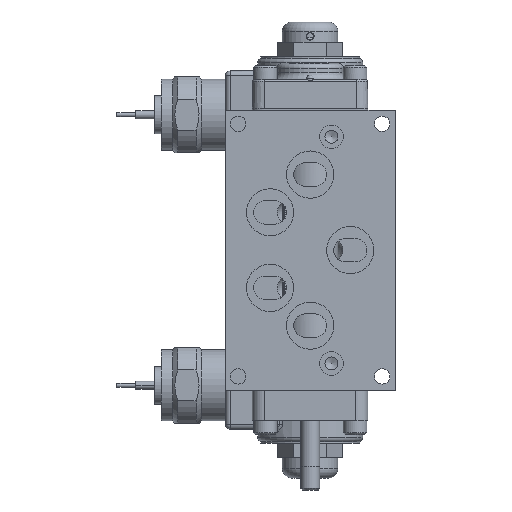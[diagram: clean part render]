
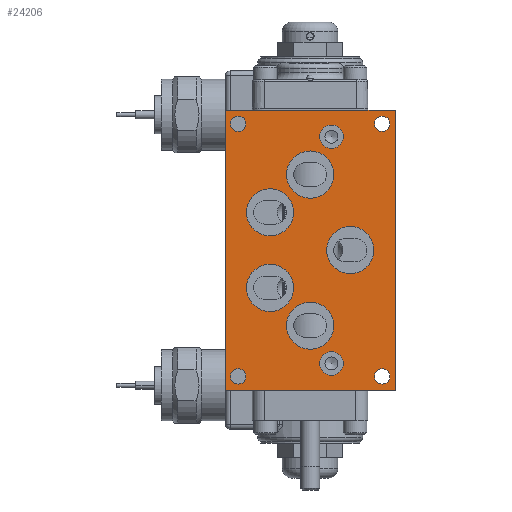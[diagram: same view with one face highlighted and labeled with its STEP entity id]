
A CAD part, front view. The second image highlights one B-rep face of the part: STEP entity #24206.
In plain terms, the highlighted planar face has unit normal (0, -1, 0).
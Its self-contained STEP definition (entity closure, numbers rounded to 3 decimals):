
#592=FACE_BOUND('',#4149,.T.);
#593=FACE_BOUND('',#4150,.T.);
#594=FACE_BOUND('',#4151,.T.);
#595=FACE_BOUND('',#4152,.T.);
#596=FACE_BOUND('',#4153,.T.);
#597=FACE_BOUND('',#4154,.T.);
#598=FACE_BOUND('',#4155,.T.);
#599=FACE_BOUND('',#4156,.T.);
#600=FACE_BOUND('',#4157,.T.);
#601=FACE_BOUND('',#4158,.T.);
#602=FACE_BOUND('',#4159,.T.);
#1643=PLANE('',#26147);
#2561=FACE_OUTER_BOUND('',#4148,.T.);
#4148=EDGE_LOOP('',(#17989,#17990,#17991,#17992));
#4149=EDGE_LOOP('',(#17993));
#4150=EDGE_LOOP('',(#17994));
#4151=EDGE_LOOP('',(#17995));
#4152=EDGE_LOOP('',(#17996));
#4153=EDGE_LOOP('',(#17997));
#4154=EDGE_LOOP('',(#17998));
#4155=EDGE_LOOP('',(#17999));
#4156=EDGE_LOOP('',(#18000));
#4157=EDGE_LOOP('',(#18001));
#4158=EDGE_LOOP('',(#18002));
#4159=EDGE_LOOP('',(#18003));
#5531=CIRCLE('',#26068,0.396);
#5535=CIRCLE('',#26076,0.396);
#5537=CIRCLE('',#26081,0.794);
#5539=CIRCLE('',#26085,0.794);
#5541=CIRCLE('',#26089,0.794);
#5543=CIRCLE('',#26093,0.794);
#5545=CIRCLE('',#26097,0.794);
#5558=CIRCLE('',#26118,0.258);
#5562=CIRCLE('',#26124,0.258);
#5566=CIRCLE('',#26130,0.258);
#5570=CIRCLE('',#26136,0.258);
#7322=LINE('',#39990,#8932);
#7326=LINE('',#39999,#8936);
#7328=LINE('',#40002,#8938);
#7329=LINE('',#40003,#8939);
#8932=VECTOR('',#30804,1.);
#8936=VECTOR('',#30814,1.);
#8938=VECTOR('',#30818,1.);
#8939=VECTOR('',#30819,1.);
#10523=VERTEX_POINT('',#39801);
#10528=VERTEX_POINT('',#39817);
#10530=VERTEX_POINT('',#39826);
#10532=VERTEX_POINT('',#39833);
#10534=VERTEX_POINT('',#39840);
#10536=VERTEX_POINT('',#39847);
#10538=VERTEX_POINT('',#39854);
#10553=VERTEX_POINT('',#39899);
#10559=VERTEX_POINT('',#39914);
#10565=VERTEX_POINT('',#39929);
#10571=VERTEX_POINT('',#39944);
#10584=VERTEX_POINT('',#39986);
#10585=VERTEX_POINT('',#39988);
#10586=VERTEX_POINT('',#39996);
#10587=VERTEX_POINT('',#39998);
#13146=EDGE_CURVE('',#10523,#10523,#5531,.T.);
#13153=EDGE_CURVE('',#10528,#10528,#5535,.T.);
#13157=EDGE_CURVE('',#10530,#10530,#5537,.T.);
#13160=EDGE_CURVE('',#10532,#10532,#5539,.T.);
#13163=EDGE_CURVE('',#10534,#10534,#5541,.T.);
#13166=EDGE_CURVE('',#10536,#10536,#5543,.T.);
#13169=EDGE_CURVE('',#10538,#10538,#5545,.T.);
#13192=EDGE_CURVE('',#10553,#10553,#5558,.T.);
#13199=EDGE_CURVE('',#10559,#10559,#5562,.T.);
#13206=EDGE_CURVE('',#10565,#10565,#5566,.T.);
#13213=EDGE_CURVE('',#10571,#10571,#5570,.T.);
#13236=EDGE_CURVE('',#10584,#10585,#7322,.T.);
#13240=EDGE_CURVE('',#10587,#10586,#7326,.T.);
#13242=EDGE_CURVE('',#10586,#10584,#7328,.T.);
#13243=EDGE_CURVE('',#10585,#10587,#7329,.T.);
#17989=ORIENTED_EDGE('',*,*,#13242,.T.);
#17990=ORIENTED_EDGE('',*,*,#13236,.T.);
#17991=ORIENTED_EDGE('',*,*,#13243,.T.);
#17992=ORIENTED_EDGE('',*,*,#13240,.T.);
#17993=ORIENTED_EDGE('',*,*,#13146,.T.);
#17994=ORIENTED_EDGE('',*,*,#13153,.T.);
#17995=ORIENTED_EDGE('',*,*,#13157,.T.);
#17996=ORIENTED_EDGE('',*,*,#13160,.T.);
#17997=ORIENTED_EDGE('',*,*,#13163,.T.);
#17998=ORIENTED_EDGE('',*,*,#13166,.T.);
#17999=ORIENTED_EDGE('',*,*,#13169,.T.);
#18000=ORIENTED_EDGE('',*,*,#13192,.T.);
#18001=ORIENTED_EDGE('',*,*,#13199,.T.);
#18002=ORIENTED_EDGE('',*,*,#13206,.T.);
#18003=ORIENTED_EDGE('',*,*,#13213,.T.);
#24206=ADVANCED_FACE('',(#2561,#592,#593,#594,#595,#596,#597,#598,#599,
#600,#601,#602),#1643,.T.);
#26068=AXIS2_PLACEMENT_3D('',#39802,#30602,#30603);
#26076=AXIS2_PLACEMENT_3D('',#39818,#30621,#30622);
#26081=AXIS2_PLACEMENT_3D('',#39827,#30633,#30634);
#26085=AXIS2_PLACEMENT_3D('',#39834,#30642,#30643);
#26089=AXIS2_PLACEMENT_3D('',#39841,#30651,#30652);
#26093=AXIS2_PLACEMENT_3D('',#39848,#30660,#30661);
#26097=AXIS2_PLACEMENT_3D('',#39855,#30669,#30670);
#26118=AXIS2_PLACEMENT_3D('',#39901,#30721,#30722);
#26124=AXIS2_PLACEMENT_3D('',#39916,#30736,#30737);
#26130=AXIS2_PLACEMENT_3D('',#39931,#30751,#30752);
#26136=AXIS2_PLACEMENT_3D('',#39946,#30766,#30767);
#26147=AXIS2_PLACEMENT_3D('',#40001,#30816,#30817);
#30602=DIRECTION('center_axis',(0.,1.,0.));
#30603=DIRECTION('ref_axis',(1.,0.,0.));
#30621=DIRECTION('center_axis',(0.,1.,0.));
#30622=DIRECTION('ref_axis',(1.,0.,0.));
#30633=DIRECTION('center_axis',(0.,1.,0.));
#30634=DIRECTION('ref_axis',(1.,0.,0.));
#30642=DIRECTION('center_axis',(0.,1.,0.));
#30643=DIRECTION('ref_axis',(1.,0.,0.));
#30651=DIRECTION('center_axis',(0.,1.,0.));
#30652=DIRECTION('ref_axis',(1.,0.,0.));
#30660=DIRECTION('center_axis',(0.,1.,0.));
#30661=DIRECTION('ref_axis',(1.,0.,0.));
#30669=DIRECTION('center_axis',(0.,1.,0.));
#30670=DIRECTION('ref_axis',(1.,0.,0.));
#30721=DIRECTION('center_axis',(0.,1.,0.));
#30722=DIRECTION('ref_axis',(1.,0.,0.));
#30736=DIRECTION('center_axis',(0.,1.,0.));
#30737=DIRECTION('ref_axis',(1.,0.,0.));
#30751=DIRECTION('center_axis',(0.,1.,0.));
#30752=DIRECTION('ref_axis',(1.,0.,0.));
#30766=DIRECTION('center_axis',(0.,1.,0.));
#30767=DIRECTION('ref_axis',(1.,0.,0.));
#30804=DIRECTION('',(0.,0.,-1.));
#30814=DIRECTION('',(0.,0.,1.));
#30816=DIRECTION('center_axis',(0.,-1.,0.));
#30817=DIRECTION('ref_axis',(0.,0.,-1.));
#30818=DIRECTION('',(-1.,0.,0.));
#30819=DIRECTION('',(1.,0.,0.));
#39801=CARTESIAN_POINT('',(0.318,-1.636,-3.81));
#39802=CARTESIAN_POINT('Origin',(0.714,-1.636,-3.81));
#39817=CARTESIAN_POINT('',(0.318,-1.636,3.81));
#39818=CARTESIAN_POINT('Origin',(0.714,-1.636,3.81));
#39826=CARTESIAN_POINT('',(0.555,-1.636,0.));
#39827=CARTESIAN_POINT('Origin',(1.349,-1.636,0.));
#39833=CARTESIAN_POINT('',(-0.794,-1.636,-2.54));
#39834=CARTESIAN_POINT('Origin',(0.,-1.636,-2.54));
#39840=CARTESIAN_POINT('',(-0.794,-1.636,2.54));
#39841=CARTESIAN_POINT('Origin',(0.,-1.636,2.54));
#39847=CARTESIAN_POINT('',(-2.142,-1.636,-1.27));
#39848=CARTESIAN_POINT('Origin',(-1.349,-1.636,-1.27));
#39854=CARTESIAN_POINT('',(-2.142,-1.636,1.27));
#39855=CARTESIAN_POINT('Origin',(-1.349,-1.636,1.27));
#39899=CARTESIAN_POINT('',(-2.679,-1.636,4.247));
#39901=CARTESIAN_POINT('Origin',(-2.421,-1.636,4.247));
#39914=CARTESIAN_POINT('',(2.163,-1.636,4.247));
#39916=CARTESIAN_POINT('Origin',(2.421,-1.636,4.247));
#39929=CARTESIAN_POINT('',(2.163,-1.636,-4.247));
#39931=CARTESIAN_POINT('Origin',(2.421,-1.636,-4.247));
#39944=CARTESIAN_POINT('',(-2.679,-1.636,-4.247));
#39946=CARTESIAN_POINT('Origin',(-2.421,-1.636,-4.247));
#39986=CARTESIAN_POINT('',(-2.858,-1.636,4.71));
#39988=CARTESIAN_POINT('',(-2.858,-1.636,-4.71));
#39990=CARTESIAN_POINT('',(-2.858,-1.636,0.));
#39996=CARTESIAN_POINT('',(2.858,-1.636,4.71));
#39998=CARTESIAN_POINT('',(2.858,-1.636,-4.71));
#39999=CARTESIAN_POINT('',(2.858,-1.636,0.));
#40001=CARTESIAN_POINT('Origin',(2.858,-1.636,0.));
#40002=CARTESIAN_POINT('',(-2.858,-1.636,4.71));
#40003=CARTESIAN_POINT('',(-2.858,-1.636,-4.71));
